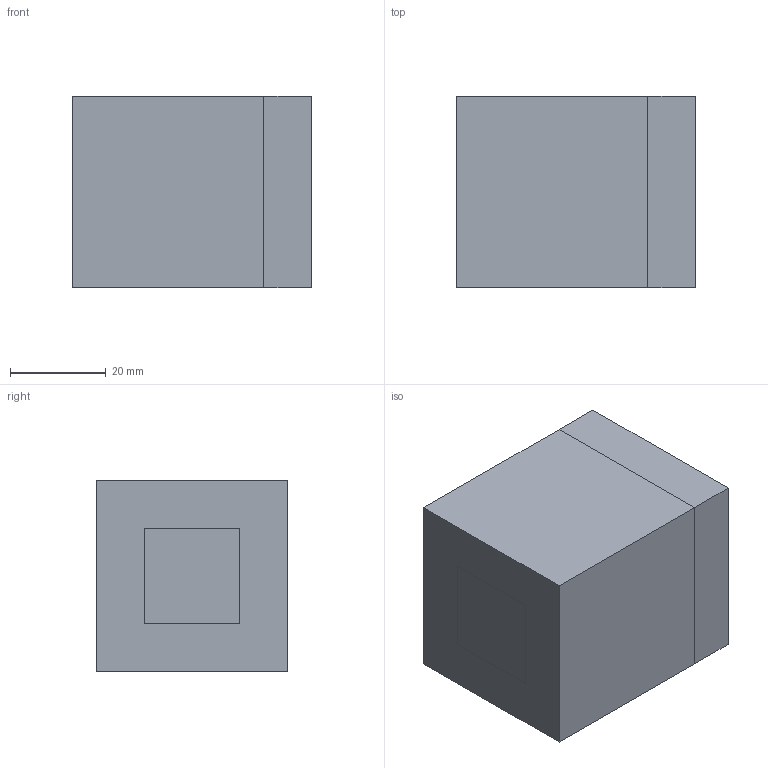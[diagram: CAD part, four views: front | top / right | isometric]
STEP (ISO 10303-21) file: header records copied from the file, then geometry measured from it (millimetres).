
FILE_DESCRIPTION(/* description */ (''),/* implementation_level */ '2;1');
FILE_NAME(/* name */ 'E:\OneDrive\Desktop\N5_GC_Sections\Task 1\ASSY_Task_1.stp',/* time_stamp */ '2020-06-08T15:22:22+01:00',/* author */ ('hunte'),/* organization */ (''),/* preprocessor_version */ 'ST-DEVELOPER v18.1',/* originating_system */ 'Autodesk Inventor 2020',/* authorisation */ '');
FILE_SCHEMA (('AUTOMOTIVE_DESIGN { 1 0 10303 214 3 1 1 }'));
Length unit declared in the file: millimetre
Products named in the file (3): ASSY_Task_1; PRT_A; PRT_B
Assembly tree (2 placements, depth 2):
  ASSY_Task_1
    PRT_A
    PRT_B
Bounding box: 50 x 40 x 40 mm (x, y, z)
Volume: 80000 mm3; surface area: 20000 mm2
Topology: 2 solids, 2 shells, 21 faces, 48 edges, 32 vertices
Faces by surface type: plane 21
Entity records: 691 total; most frequent: CARTESIAN_POINT 106, DIRECTION 100, ORIENTED_EDGE 96, LINE 48, VECTOR 48, EDGE_CURVE 48, VERTEX_POINT 32, AXIS2_PLACEMENT_3D 26
